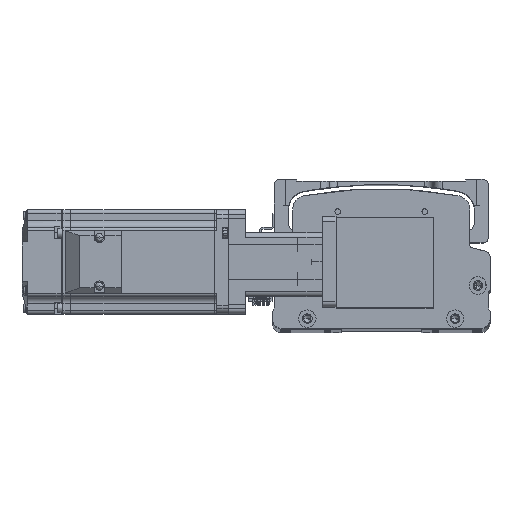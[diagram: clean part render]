
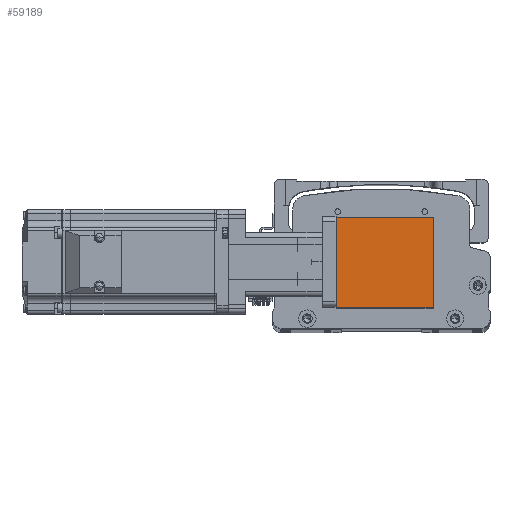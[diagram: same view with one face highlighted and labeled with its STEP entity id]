
A CAD part, top view. The second image highlights one B-rep face of the part: STEP entity #59189.
In plain terms, the highlighted planar face has unit normal (0, 0, 1) as drawn and (-1, 0, 0) by its records, which use the part's own axes.
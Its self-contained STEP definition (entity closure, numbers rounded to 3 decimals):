
#504 = EDGE_CURVE ( 'NONE', #49718, #36669, #4560, .T. ) ;
#1096 = ORIENTED_EDGE ( 'NONE', *, *, #37711, .F. ) ;
#3074 = LINE ( 'NONE', #35224, #41718 ) ;
#4560 = LINE ( 'NONE', #53668, #43239 ) ;
#4598 = PLANE ( 'NONE',  #52395 ) ;
#6489 = CARTESIAN_POINT ( 'NONE',  ( -31.5, -26., 0. ) ) ;
#10836 = CARTESIAN_POINT ( 'NONE',  ( -31.5, 26., 56. ) ) ;
#11373 = DIRECTION ( 'NONE',  ( 0., -1., 0. ) ) ;
#15203 = VERTEX_POINT ( 'NONE', #27093 ) ;
#19748 = DIRECTION ( 'NONE',  ( 0., -1., 0. ) ) ;
#22913 = EDGE_CURVE ( 'NONE', #49718, #25735, #27961, .T. ) ;
#24064 = DIRECTION ( 'NONE',  ( 0., 0., -1. ) ) ;
#24972 = EDGE_CURVE ( 'NONE', #25735, #15203, #59252, .T. ) ;
#25735 = VERTEX_POINT ( 'NONE', #46663 ) ;
#27093 = CARTESIAN_POINT ( 'NONE',  ( -31.5, -26., 0. ) ) ;
#27961 = LINE ( 'NONE', #44735, #40822 ) ;
#31483 = ORIENTED_EDGE ( 'NONE', *, *, #22913, .T. ) ;
#32083 = FACE_OUTER_BOUND ( 'NONE', #46301, .T. ) ;
#35224 = CARTESIAN_POINT ( 'NONE',  ( -31.5, -26., 56. ) ) ;
#36669 = VERTEX_POINT ( 'NONE', #36853 ) ;
#36853 = CARTESIAN_POINT ( 'NONE',  ( -31.5, -26., 56. ) ) ;
#37711 = EDGE_CURVE ( 'NONE', #36669, #15203, #3074, .T. ) ;
#38482 = CARTESIAN_POINT ( 'NONE',  ( -31.5, -26., 56. ) ) ;
#40822 = VECTOR ( 'NONE', #54416, 1000. ) ;
#41544 = ORIENTED_EDGE ( 'NONE', *, *, #504, .F. ) ;
#41718 = VECTOR ( 'NONE', #44998, 1000. ) ;
#43239 = VECTOR ( 'NONE', #19748, 1000. ) ;
#44735 = CARTESIAN_POINT ( 'NONE',  ( -31.5, 26., 56. ) ) ;
#44998 = DIRECTION ( 'NONE',  ( 0., 0., -1. ) ) ;
#46301 = EDGE_LOOP ( 'NONE', ( #49492, #1096, #41544, #31483 ) ) ;
#46380 = VECTOR ( 'NONE', #11373, 1000. ) ;
#46663 = CARTESIAN_POINT ( 'NONE',  ( -31.5, 26., 0. ) ) ;
#49492 = ORIENTED_EDGE ( 'NONE', *, *, #24972, .T. ) ;
#49718 = VERTEX_POINT ( 'NONE', #10836 ) ;
#52395 = AXIS2_PLACEMENT_3D ( 'NONE', #38482, #53089, #24064 ) ;
#53089 = DIRECTION ( 'NONE',  ( 1., 0., 0. ) ) ;
#53668 = CARTESIAN_POINT ( 'NONE',  ( -31.5, -26., 56. ) ) ;
#54416 = DIRECTION ( 'NONE',  ( 0., 0., -1. ) ) ;
#59189 = ADVANCED_FACE ( 'NONE', ( #32083 ), #4598, .F. ) ;
#59252 = LINE ( 'NONE', #6489, #46380 ) ;
